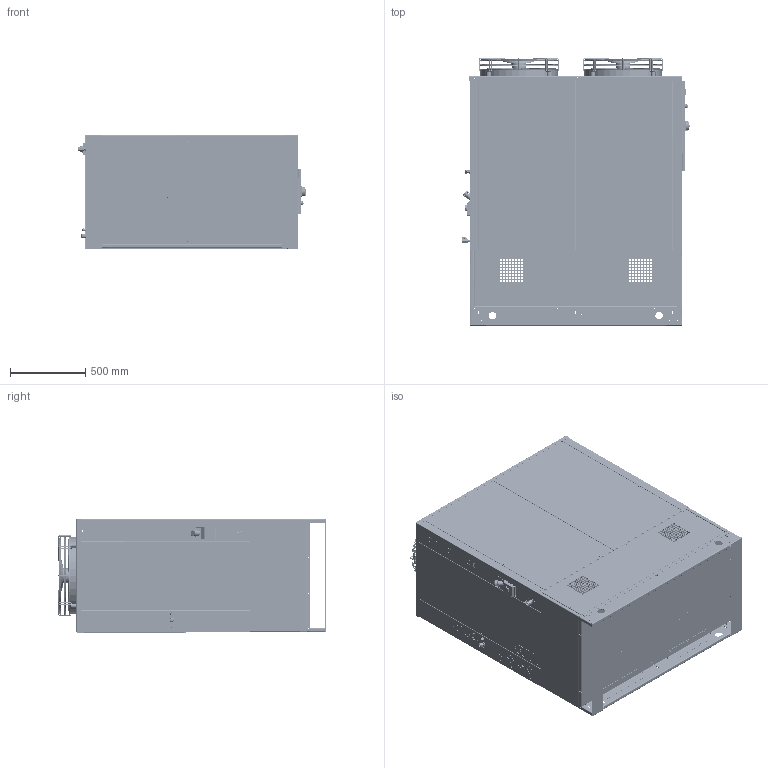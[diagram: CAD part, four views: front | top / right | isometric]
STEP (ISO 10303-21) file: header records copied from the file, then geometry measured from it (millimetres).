
FILE_DESCRIPTION (( 'STEP AP203' ), '1' );
FILE_NAME ('COPIA_F3H-2C_REV_00.STEP', '2026-07-20T14:03:00', ( '' ), ( '' ), 'SwSTEP 2.0', 'SolidWorks 2023', '' );
FILE_SCHEMA (( 'CONFIG_CONTROL_DESIGN' ));
Length unit declared in the file: millimetre
Products named in the file (90): COPIA_CR-3F-00004_002; COPIA_VR-2F-00008_003; COPIA_PG 9_2_Nut-PA-Grey-19-19-22-Nelco; COPIA_RIVELOX M5; COPIA_VASCHETTA F3 COND DX 32_SUP; COPIA_CR-3F-00006_001B; COPIA_CR-3F-00005_002; COPIA_VR-3F-00002_002; COPIA_6D-400-S-018-2_22_AF0; COPIA_50-3F-00003; COPIA_VE-W5-00007_ELICA; COPIA_SELETTORE_NERO; COPIA_VR-3D-00035_000; COPIA_VR-3F-00004_002; COPIA_CR-3F-00008_001; COPIA_VR-2F-00010_000; COPIA_PRT0002_11_AF0; COPIA_H48-0025_DX; COPIA_VE-W5-00007_04; COPIA_H48-0022_DX; COPIA_PG 9_Cable-Gland-1.209.0900.14-Nelco; COPIA_CR-2D-00004_001; COPIA_50-3F-00001-2_50-3F-00001-SENZA_BASE; COPIA_6D-400-S-012_2_AF0; COPIA_G72-0024_DX; COPIA_T06-0208_DX; COPIA_IN-VI-00001; COPIA_SE-RP-00013; COPIA_VR-3F-00006_001C; COPIA_CR-3F-00009_001; COPIA_CO-MI-00018 X0-CD0242-00(2)_DX; COPIA_WE-W5-00007; COPIA_VR-3F-00006_001A; COPIA_CR-3F-00006_001; COPIA_VR-3D-00004_002; COPIA_B72-0529_DX; COPIA_VE-W5-00007_03; COPIA_TE-EL-00018; COPIA_CR-3F-00003_000; COPIA_CR-3F-00006_001A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
Assembly tree (184 placements, depth 8):
  COPIA_F3H-2C_REV_00
    COPIA_40-MI-E0010_SENZA_BASE
      COPIA_50-3F-00001-2_50-3F-00001-SENZA_BASE
        COPIA_VR-2F-00005_003
        COPIA_VR-2F-00006_003
        COPIA_VR-2F-00007_004
        COPIA_VR-2F-00008_003
        COPIA_VR-2F-00010_000
        COPIA_VR-2F-00011_000
        COPIA_CR-3F-00008_001  x2
        COPIA_CR-3F-00009_001
        COPIA_CR-3F-00005_002
        COPIA_VR-3F-00004_002
        COPIA_CR-3F-00007_004
        COPIA_VASCHETTA F3 COND DX 32_SUP
          COPIA_CO-MI-00018 X0-CD0242-00_DX_CO-MI-00018_PER_40-MI-E0010
            COPIA_CO-MI-00018 X0-CD0242-00(2)_DX
              COPIA_Y0-CD0242_DX
                COPIA_H48-0022_DX
                COPIA_H48-0025_DX
                COPIA_S82b-1315_DX  x10
                COPIA_B72-0529_DX  x10
                COPIA_D01-CD0240P_DX  x2
                COPIA_T03-0044_DX
                COPIA_T04-0187_DX  x4
                COPIA_T06-0208_DX
                COPIA_T06-0207_DX
              COPIA_T09-0001_DX
              COPIA_T09-0002_DX
              COPIA_T09-0146_DX
            COPIA_G72-0024_DX
            COPIA_G82-0010_DX
          COPIA_PiedeCondensatoreDanfossD38  x4
          COPIA_CR-3F-00003_000
          COPIA_CR-3F-00004_002
        COPIA_VR-3F-00006_001  x2
          COPIA_VR-3F-00006_001A
          COPIA_VR-3F-00006_001B
          COPIA_VR-3F-00006_001C
        COPIA_VR-3F-00002_002  x2
        COPIA_CR-2D-00004_001  x2
        COPIA_CR-3D-00010_001
        COPIA_CR-2F-00008_000
        COPIA_FI-A4-00002_000  x2
        COPIA_CR-3F-00006_001
          COPIA_CR-3F-00006_001A
          COPIA_CR-3F-00006_001B
        COPIA_MOUSSE_ADESIVA_20X10_L658  x2
        COPIA_MOUSSE_ADESIVA_20X10_L1270  x2
      COPIA_COMPONENTI_VENTOLA_40-MI-E0010
        COPIA_AN-PI-00022  x8
        COPIA_WE-W5-00007  x2
          COPIA_350-012-C
          COPIA_6D-400-S-018-2_22_AF0
          COPIA_PRT0002_11_AF0
          COPIA_6D-400-S-012_2_AF0
          COPIA_350-450-031
          COPIA_VE-W5-00007_ELICA
          COPIA_350-022
          COPIA_VE-W5-00007_CESTELLO
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Bounding box: 1516.59 x 1778.2 x 762 mm (x, y, z)
Volume: 34947533 mm3; surface area: 37032684.1 mm2
Topology: 423 solids, 516 shells, 25009 faces, 65218 edges, 41135 vertices
Faces by surface type: plane 12802, cylinder 5439, bspline 4564, cone 1504, torus 643, sphere 57
Entity records: 629185 total; most frequent: CARTESIAN_POINT 261450, ORIENTED_EDGE 79128, DIRECTION 64350, EDGE_CURVE 39784, VERTEX_POINT 25164, VECTOR 22870, LINE 22870, AXIS2_PLACEMENT_3D 20740
